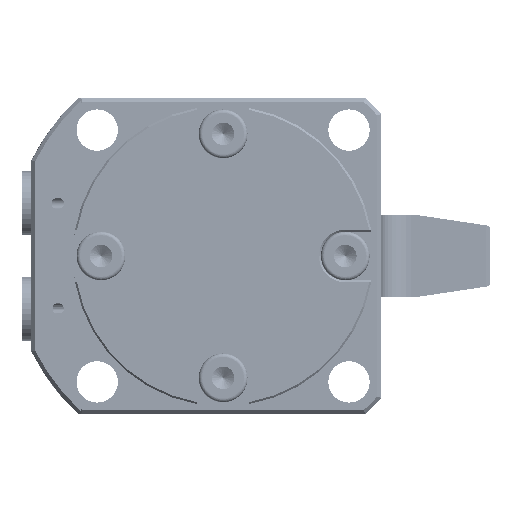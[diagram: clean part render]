
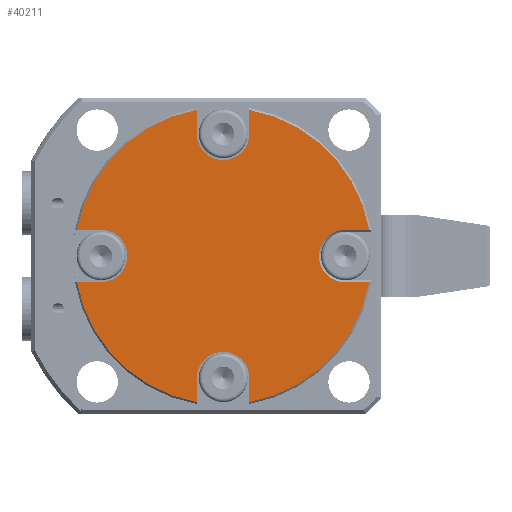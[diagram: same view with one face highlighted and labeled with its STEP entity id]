
A CAD part, front view. The second image highlights one B-rep face of the part: STEP entity #40211.
In plain terms, the highlighted planar face has unit normal (0, -1, 0).
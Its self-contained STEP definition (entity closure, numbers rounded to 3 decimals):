
#352 = CIRCLE ( 'NONE', #7392, 39.5 ) ;
#4304 = CARTESIAN_POINT ( 'NONE',  ( 2144.978, 222.465, 25.5 ) ) ;
#4305 = CARTESIAN_POINT ( 'NONE',  ( 2151.978, 222.465, 32.5 ) ) ;
#6411 = LINE ( 'NONE', #6412, #7377 ) ;
#6412 = CARTESIAN_POINT ( 'NONE',  ( 2124.978, 222.465, 7. ) ) ;
#6413 = DIRECTION ( 'NONE',  ( 1., 0., 0. ) ) ;
#6453 = LINE ( 'NONE', #6454, #7389 ) ;
#6454 = CARTESIAN_POINT ( 'NONE',  ( 2137.978, 222.465, 0. ) ) ;
#6455 = DIRECTION ( 'NONE',  ( 0., 0., 1. ) ) ;
#6465 = CARTESIAN_POINT ( 'NONE',  ( 2144.978, 222.465, 0. ) ) ;
#6472 = DIRECTION ( 'NONE',  ( 0., -1., 0. ) ) ;
#6473 = DIRECTION ( 'NONE',  ( 0., 0., 1. ) ) ;
#7377 = VECTOR ( 'NONE', #6413, 1000. ) ;
#7389 = VECTOR ( 'NONE', #6455, 1000. ) ;
#7392 = AXIS2_PLACEMENT_3D ( 'NONE', #6465, #6472, #6473 ) ;
#9348 = ORIENTED_EDGE ( 'NONE', *, *, #36779, .T. ) ;
#9349 = ORIENTED_EDGE ( 'NONE', *, *, #40551, .T. ) ;
#9350 = ORIENTED_EDGE ( 'NONE', *, *, #48091, .T. ) ;
#9351 = ORIENTED_EDGE ( 'NONE', *, *, #36773, .T. ) ;
#9352 = ORIENTED_EDGE ( 'NONE', *, *, #36759, .T. ) ;
#9353 = ORIENTED_EDGE ( 'NONE', *, *, #48103, .T. ) ;
#9354 = ORIENTED_EDGE ( 'NONE', *, *, #48089, .T. ) ;
#9355 = ORIENTED_EDGE ( 'NONE', *, *, #48077, .T. ) ;
#9356 = ORIENTED_EDGE ( 'NONE', *, *, #48090, .T. ) ;
#9357 = ORIENTED_EDGE ( 'NONE', *, *, #48073, .T. ) ;
#9358 = ORIENTED_EDGE ( 'NONE', *, *, #48095, .T. ) ;
#9359 = ORIENTED_EDGE ( 'NONE', *, *, #48092, .T. ) ;
#9360 = ORIENTED_EDGE ( 'NONE', *, *, #48081, .T. ) ;
#9361 = ORIENTED_EDGE ( 'NONE', *, *, #48083, .T. ) ;
#9362 = ORIENTED_EDGE ( 'NONE', *, *, #48110, .T. ) ;
#9363 = ORIENTED_EDGE ( 'NONE', *, *, #48088, .T. ) ;
#9364 = ORIENTED_EDGE ( 'NONE', *, *, #48109, .T. ) ;
#16844 = FACE_OUTER_BOUND ( 'NONE', #42283, .T. ) ;
#16849 = AXIS2_PLACEMENT_3D ( 'NONE', #20540, #20541, #20542 ) ;
#19203 = VERTEX_POINT ( 'NONE', #4304 ) ;
#19204 = VERTEX_POINT ( 'NONE', #4305 ) ;
#20539 = PLANE ( 'NONE',  #16849 ) ;
#20540 = CARTESIAN_POINT ( 'NONE',  ( 2124.978, 222.465, 0. ) ) ;
#20541 = DIRECTION ( 'NONE',  ( 0., -1., 0. ) ) ;
#20542 = DIRECTION ( 'NONE',  ( 0., 0., -1. ) ) ;
#20921 = CIRCLE ( 'NONE', #22506, 7. ) ;
#21123 = CIRCLE ( 'NONE', #35514, 7. ) ;
#21124 = CIRCLE ( 'NONE', #35509, 39.5 ) ;
#21127 = CIRCLE ( 'NONE', #35506, 7. ) ;
#21128 = CIRCLE ( 'NONE', #35520, 39.5 ) ;
#21129 = CIRCLE ( 'NONE', #35517, 7. ) ;
#21130 = CIRCLE ( 'NONE', #35516, 39.5 ) ;
#21132 = CIRCLE ( 'NONE', #35530, 7. ) ;
#22506 = AXIS2_PLACEMENT_3D ( 'NONE', #23377, #23378, #23379 ) ;
#23377 = CARTESIAN_POINT ( 'NONE',  ( 2144.978, 222.465, 32.5 ) ) ;
#23378 = DIRECTION ( 'NONE',  ( 0., 1., 0. ) ) ;
#23379 = DIRECTION ( 'NONE',  ( 0., 0., -1. ) ) ;
#24181 = CARTESIAN_POINT ( 'NONE',  ( 2137.978, 222.465, 32.5 ) ) ;
#24182 = CARTESIAN_POINT ( 'NONE',  ( 2137.978, 222.465, 38.875 ) ) ;
#24183 = CARTESIAN_POINT ( 'NONE',  ( 2106.103, 222.465, 7. ) ) ;
#24184 = CARTESIAN_POINT ( 'NONE',  ( 2112.478, 222.465, 7. ) ) ;
#24185 = CARTESIAN_POINT ( 'NONE',  ( 2112.478, 222.465, -7. ) ) ;
#24186 = CARTESIAN_POINT ( 'NONE',  ( 2106.103, 222.465, -7. ) ) ;
#24187 = CARTESIAN_POINT ( 'NONE',  ( 2137.978, 222.465, -38.875 ) ) ;
#24188 = CARTESIAN_POINT ( 'NONE',  ( 2137.978, 222.465, -32.5 ) ) ;
#24189 = CARTESIAN_POINT ( 'NONE',  ( 2151.978, 222.465, -32.5 ) ) ;
#24190 = CARTESIAN_POINT ( 'NONE',  ( 2151.978, 222.465, -38.875 ) ) ;
#24191 = CARTESIAN_POINT ( 'NONE',  ( 2183.852, 222.465, -7. ) ) ;
#24192 = CARTESIAN_POINT ( 'NONE',  ( 2177.478, 222.465, -7. ) ) ;
#24193 = CARTESIAN_POINT ( 'NONE',  ( 2177.478, 222.465, 7. ) ) ;
#24194 = CARTESIAN_POINT ( 'NONE',  ( 2183.852, 222.465, 7. ) ) ;
#24195 = CARTESIAN_POINT ( 'NONE',  ( 2151.978, 222.465, 38.875 ) ) ;
#35506 = AXIS2_PLACEMENT_3D ( 'NONE', #36148, #36149, #36150 ) ;
#35509 = AXIS2_PLACEMENT_3D ( 'NONE', #36151, #36161, #36162 ) ;
#35513 = VECTOR ( 'NONE', #36177, 1000. ) ;
#35514 = AXIS2_PLACEMENT_3D ( 'NONE', #36174, #36181, #36182 ) ;
#35516 = AXIS2_PLACEMENT_3D ( 'NONE', #36207, #36208, #36209 ) ;
#35517 = AXIS2_PLACEMENT_3D ( 'NONE', #36198, #36205, #36206 ) ;
#35520 = AXIS2_PLACEMENT_3D ( 'NONE', #36189, #36196, #36197 ) ;
#35522 = VECTOR ( 'NONE', #36201, 1000. ) ;
#35523 = VECTOR ( 'NONE', #36204, 1000. ) ;
#35525 = VECTOR ( 'NONE', #36220, 1000. ) ;
#35530 = AXIS2_PLACEMENT_3D ( 'NONE', #36237, #36244, #36245 ) ;
#35535 = VECTOR ( 'NONE', #36264, 1000. ) ;
#35537 = VECTOR ( 'NONE', #36267, 1000. ) ;
#36148 = CARTESIAN_POINT ( 'NONE',  ( 2144.978, 222.465, -32.5 ) ) ;
#36149 = DIRECTION ( 'NONE',  ( 0., 1., 0. ) ) ;
#36150 = DIRECTION ( 'NONE',  ( 0., 0., -1. ) ) ;
#36151 = CARTESIAN_POINT ( 'NONE',  ( 2144.978, 222.465, 0. ) ) ;
#36161 = DIRECTION ( 'NONE',  ( 0., -1., 0. ) ) ;
#36162 = DIRECTION ( 'NONE',  ( -1., 0., 0. ) ) ;
#36174 = CARTESIAN_POINT ( 'NONE',  ( 2177.478, 222.465, 0. ) ) ;
#36175 = LINE ( 'NONE', #36176, #35513 ) ;
#36176 = CARTESIAN_POINT ( 'NONE',  ( 2124.978, 222.465, -7. ) ) ;
#36177 = DIRECTION ( 'NONE',  ( -1., 0., 0. ) ) ;
#36181 = DIRECTION ( 'NONE',  ( 0., 1., 0. ) ) ;
#36182 = DIRECTION ( 'NONE',  ( 0., 0., -1. ) ) ;
#36189 = CARTESIAN_POINT ( 'NONE',  ( 2144.978, 222.465, 0. ) ) ;
#36196 = DIRECTION ( 'NONE',  ( 0., -1., 0. ) ) ;
#36197 = DIRECTION ( 'NONE',  ( 0., 0., 1. ) ) ;
#36198 = CARTESIAN_POINT ( 'NONE',  ( 2144.978, 222.465, 32.5 ) ) ;
#36199 = LINE ( 'NONE', #36200, #35522 ) ;
#36200 = CARTESIAN_POINT ( 'NONE',  ( 2124.978, 222.465, -7. ) ) ;
#36201 = DIRECTION ( 'NONE',  ( -1., 0., 0. ) ) ;
#36202 = LINE ( 'NONE', #36203, #35523 ) ;
#36203 = CARTESIAN_POINT ( 'NONE',  ( 2137.978, 222.465, 0. ) ) ;
#36204 = DIRECTION ( 'NONE',  ( 0., 0., 1. ) ) ;
#36205 = DIRECTION ( 'NONE',  ( 0., 1., 0. ) ) ;
#36206 = DIRECTION ( 'NONE',  ( 0., 0., -1. ) ) ;
#36207 = CARTESIAN_POINT ( 'NONE',  ( 2144.978, 222.465, 0. ) ) ;
#36208 = DIRECTION ( 'NONE',  ( 0., -1., 0. ) ) ;
#36209 = DIRECTION ( 'NONE',  ( -1., 0., 0. ) ) ;
#36218 = LINE ( 'NONE', #36219, #35525 ) ;
#36219 = CARTESIAN_POINT ( 'NONE',  ( 2151.978, 222.465, 0. ) ) ;
#36220 = DIRECTION ( 'NONE',  ( 0., 0., -1. ) ) ;
#36237 = CARTESIAN_POINT ( 'NONE',  ( 2112.478, 222.465, 0. ) ) ;
#36244 = DIRECTION ( 'NONE',  ( 0., 1., 0. ) ) ;
#36245 = DIRECTION ( 'NONE',  ( 0., 0., -1. ) ) ;
#36262 = LINE ( 'NONE', #36263, #35535 ) ;
#36263 = CARTESIAN_POINT ( 'NONE',  ( 2151.978, 222.465, 0. ) ) ;
#36264 = DIRECTION ( 'NONE',  ( 0., 0., -1. ) ) ;
#36265 = LINE ( 'NONE', #36266, #35537 ) ;
#36266 = CARTESIAN_POINT ( 'NONE',  ( 2124.978, 222.465, 7. ) ) ;
#36267 = DIRECTION ( 'NONE',  ( 1., 0., 0. ) ) ;
#36759 = EDGE_CURVE ( 'NONE', #41389, #41390, #6411, .T. ) ;
#36773 = EDGE_CURVE ( 'NONE', #41387, #41388, #6453, .T. ) ;
#36779 = EDGE_CURVE ( 'NONE', #41388, #41389, #352, .T. ) ;
#40211 = ADVANCED_FACE ( 'NONE', ( #16844 ), #20539, .T. ) ;
#40551 = EDGE_CURVE ( 'NONE', #19204, #19203, #20921, .T. ) ;
#41387 = VERTEX_POINT ( 'NONE', #24181 ) ;
#41388 = VERTEX_POINT ( 'NONE', #24182 ) ;
#41389 = VERTEX_POINT ( 'NONE', #24183 ) ;
#41390 = VERTEX_POINT ( 'NONE', #24184 ) ;
#41391 = VERTEX_POINT ( 'NONE', #24185 ) ;
#41392 = VERTEX_POINT ( 'NONE', #24186 ) ;
#41393 = VERTEX_POINT ( 'NONE', #24187 ) ;
#41394 = VERTEX_POINT ( 'NONE', #24188 ) ;
#41395 = VERTEX_POINT ( 'NONE', #24189 ) ;
#41396 = VERTEX_POINT ( 'NONE', #24190 ) ;
#41397 = VERTEX_POINT ( 'NONE', #24191 ) ;
#41398 = VERTEX_POINT ( 'NONE', #24192 ) ;
#41399 = VERTEX_POINT ( 'NONE', #24193 ) ;
#41400 = VERTEX_POINT ( 'NONE', #24194 ) ;
#41401 = VERTEX_POINT ( 'NONE', #24195 ) ;
#42283 = EDGE_LOOP ( 'NONE', ( #9349, #9350, #9351, #9348, #9352, #9353, #9354, #9355, #9356, #9357, #9358, #9359, #9360, #9361, #9362, #9363, #9364 ) ) ;
#48073 = EDGE_CURVE ( 'NONE', #41394, #41395, #21127, .T. ) ;
#48077 = EDGE_CURVE ( 'NONE', #41392, #41393, #21124, .T. ) ;
#48081 = EDGE_CURVE ( 'NONE', #41397, #41398, #36175, .T. ) ;
#48083 = EDGE_CURVE ( 'NONE', #41398, #41399, #21123, .T. ) ;
#48088 = EDGE_CURVE ( 'NONE', #41400, #41401, #21128, .T. ) ;
#48089 = EDGE_CURVE ( 'NONE', #41391, #41392, #36199, .T. ) ;
#48090 = EDGE_CURVE ( 'NONE', #41393, #41394, #36202, .T. ) ;
#48091 = EDGE_CURVE ( 'NONE', #19203, #41387, #21129, .T. ) ;
#48092 = EDGE_CURVE ( 'NONE', #41396, #41397, #21130, .T. ) ;
#48095 = EDGE_CURVE ( 'NONE', #41395, #41396, #36218, .T. ) ;
#48103 = EDGE_CURVE ( 'NONE', #41390, #41391, #21132, .T. ) ;
#48109 = EDGE_CURVE ( 'NONE', #41401, #19204, #36262, .T. ) ;
#48110 = EDGE_CURVE ( 'NONE', #41399, #41400, #36265, .T. ) ;
